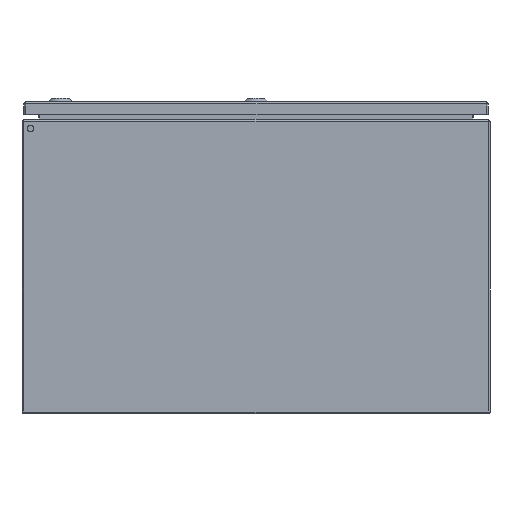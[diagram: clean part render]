
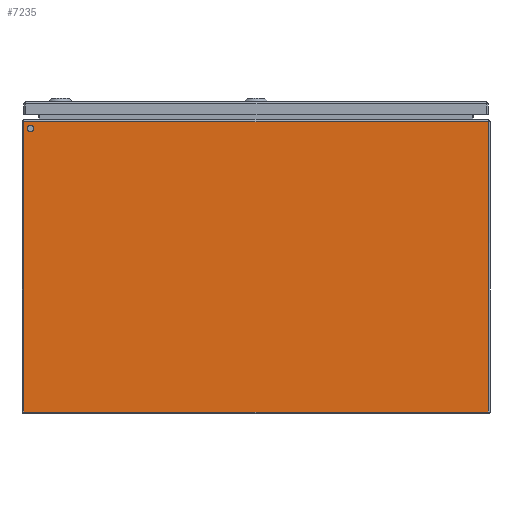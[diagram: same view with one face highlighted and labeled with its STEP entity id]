
A CAD part, front view. The second image highlights one B-rep face of the part: STEP entity #7235.
In plain terms, the highlighted planar face has unit normal (0, -1, 0).
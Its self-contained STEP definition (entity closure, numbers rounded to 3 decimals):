
#109 = DIRECTION ( 'NONE',  ( 0., 1., 0. ) ) ;
#210 = ORIENTED_EDGE ( 'NONE', *, *, #8873, .F. ) ;
#301 = VERTEX_POINT ( 'NONE', #4247 ) ;
#364 = VECTOR ( 'NONE', #2915, 1000. ) ;
#475 = DIRECTION ( 'NONE',  ( 1., 0., 0. ) ) ;
#1697 = CARTESIAN_POINT ( 'NONE',  ( 297.5, -500., 1.5 ) ) ;
#1935 = LINE ( 'NONE', #11079, #9139 ) ;
#2028 = VERTEX_POINT ( 'NONE', #5354 ) ;
#2915 = DIRECTION ( 'NONE',  ( 0., 0., 1. ) ) ;
#2979 = DIRECTION ( 'NONE',  ( 1., 0., 0. ) ) ;
#3016 = EDGE_LOOP ( 'NONE', ( #12052 ) ) ;
#3202 = CARTESIAN_POINT ( 'NONE',  ( -284.9, -500., 366. ) ) ;
#3504 = EDGE_CURVE ( 'NONE', #12405, #12405, #5632, .T. ) ;
#3958 = ORIENTED_EDGE ( 'NONE', *, *, #10863, .T. ) ;
#4247 = CARTESIAN_POINT ( 'NONE',  ( 297.5, -500., 374.5 ) ) ;
#5036 = VECTOR ( 'NONE', #9627, 1000. ) ;
#5138 = VERTEX_POINT ( 'NONE', #12772 ) ;
#5142 = EDGE_CURVE ( 'NONE', #2028, #5138, #7668, .T. ) ;
#5216 = FACE_BOUND ( 'NONE', #3016, .T. ) ;
#5354 = CARTESIAN_POINT ( 'NONE',  ( -297.5, -500., 2.5 ) ) ;
#5503 = CARTESIAN_POINT ( 'NONE',  ( -297.5, -500., 1.5 ) ) ;
#5632 = CIRCLE ( 'NONE', #12069, 4.1 ) ;
#6100 = CARTESIAN_POINT ( 'NONE',  ( 300., -500., 1.5 ) ) ;
#6148 = EDGE_LOOP ( 'NONE', ( #210, #12355, #12267, #3958 ) ) ;
#6649 = VERTEX_POINT ( 'NONE', #8007 ) ;
#7087 = DIRECTION ( 'NONE',  ( 0., -1., 0. ) ) ;
#7183 = FACE_OUTER_BOUND ( 'NONE', #6148, .T. ) ;
#7235 = ADVANCED_FACE ( 'NONE', ( #5216, #7183 ), #11281, .F. ) ;
#7668 = LINE ( 'NONE', #11706, #10270 ) ;
#8007 = CARTESIAN_POINT ( 'NONE',  ( -297.5, -500., 374.5 ) ) ;
#8024 = LINE ( 'NONE', #1697, #364 ) ;
#8283 = EDGE_CURVE ( 'NONE', #6649, #2028, #8738, .T. ) ;
#8738 = LINE ( 'NONE', #5503, #5036 ) ;
#8873 = EDGE_CURVE ( 'NONE', #6649, #301, #1935, .T. ) ;
#9060 = DIRECTION ( 'NONE',  ( 1., 0., 0. ) ) ;
#9139 = VECTOR ( 'NONE', #9060, 1000. ) ;
#9457 = AXIS2_PLACEMENT_3D ( 'NONE', #6100, #109, #10216 ) ;
#9627 = DIRECTION ( 'NONE',  ( 0., 0., -1. ) ) ;
#10216 = DIRECTION ( 'NONE',  ( -1., 0., 0. ) ) ;
#10270 = VECTOR ( 'NONE', #475, 1000. ) ;
#10863 = EDGE_CURVE ( 'NONE', #5138, #301, #8024, .T. ) ;
#11079 = CARTESIAN_POINT ( 'NONE',  ( -300., -500., 374.5 ) ) ;
#11252 = CARTESIAN_POINT ( 'NONE',  ( -289., -500., 366. ) ) ;
#11281 = PLANE ( 'NONE',  #9457 ) ;
#11706 = CARTESIAN_POINT ( 'NONE',  ( 300., -500., 2.5 ) ) ;
#12052 = ORIENTED_EDGE ( 'NONE', *, *, #3504, .F. ) ;
#12069 = AXIS2_PLACEMENT_3D ( 'NONE', #11252, #7087, #2979 ) ;
#12267 = ORIENTED_EDGE ( 'NONE', *, *, #5142, .T. ) ;
#12355 = ORIENTED_EDGE ( 'NONE', *, *, #8283, .T. ) ;
#12405 = VERTEX_POINT ( 'NONE', #3202 ) ;
#12772 = CARTESIAN_POINT ( 'NONE',  ( 297.5, -500., 2.5 ) ) ;
